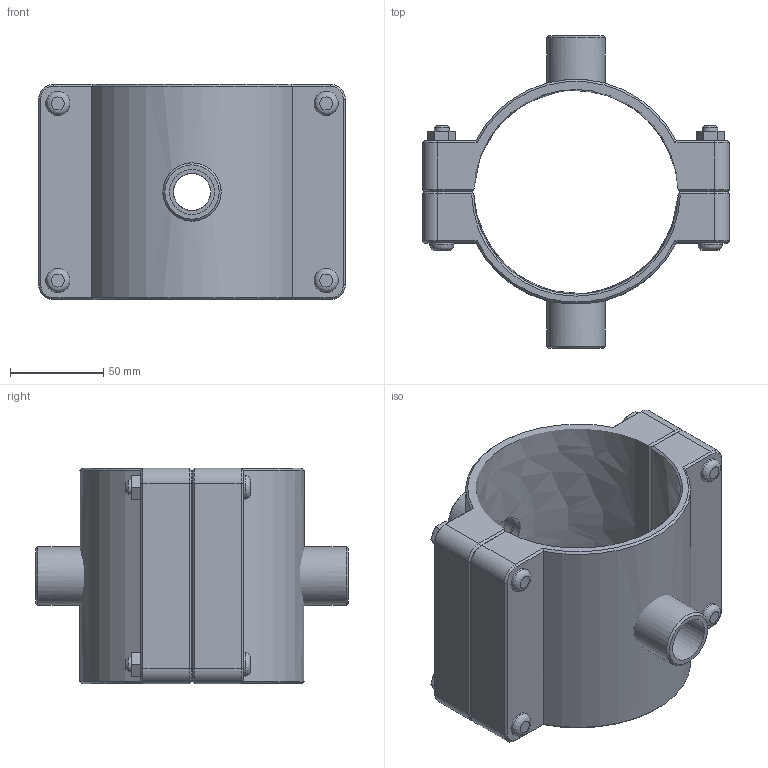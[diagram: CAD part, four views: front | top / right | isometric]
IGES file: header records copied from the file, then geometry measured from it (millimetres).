
Global section: file name: 161760110007_161860110007.ipt; native system: Autodesk Inventor 2015; preprocessor: unknown; author: KIM; date: 20170618.093737; units: millimetre
Bounding box: 165 x 168 x 116 mm (x, y, z)
Volume: 553709.2 mm3; surface area: 126489.3 mm2
Topology: 3 solids, 3 shells, 151 faces, 350 edges, 221 vertices
Faces by surface type: plane 84, cone 26, cylinder 24, revolution 17
Full cylindrical faces by diameter (mm): 8 x4, 13 x8, 31.352 x2
